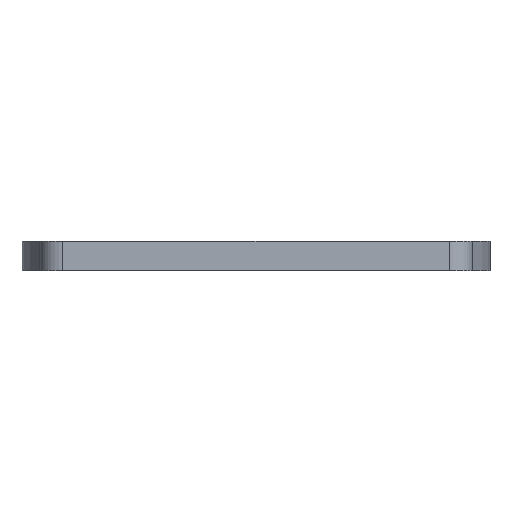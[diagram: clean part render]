
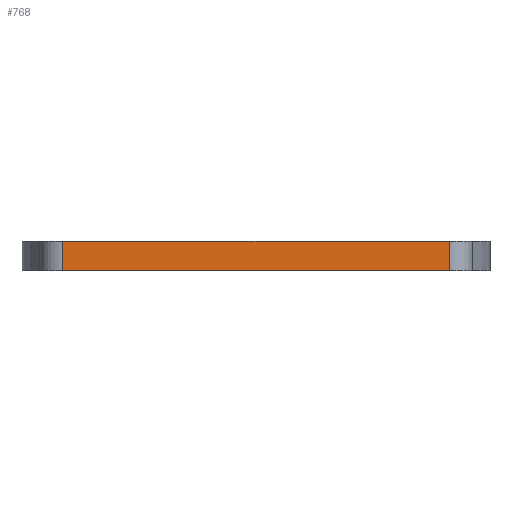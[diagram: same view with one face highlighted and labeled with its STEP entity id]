
A CAD part, front view. The second image highlights one B-rep face of the part: STEP entity #768.
In plain terms, the highlighted planar face has unit normal (0, -1, 0).
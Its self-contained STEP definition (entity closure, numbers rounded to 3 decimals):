
#16 = VECTOR ( 'NONE', #601, 1000. ) ;
#51 = LINE ( 'NONE', #335, #108 ) ;
#62 = VERTEX_POINT ( 'NONE', #966 ) ;
#96 = FACE_OUTER_BOUND ( 'NONE', #529, .T. ) ;
#107 = VERTEX_POINT ( 'NONE', #894 ) ;
#108 = VECTOR ( 'NONE', #732, 1000. ) ;
#117 = DIRECTION ( 'NONE',  ( 1., 0., 0. ) ) ;
#185 = ORIENTED_EDGE ( 'NONE', *, *, #351, .T. ) ;
#203 = LINE ( 'NONE', #1033, #16 ) ;
#235 = VECTOR ( 'NONE', #798, 1000. ) ;
#254 = LINE ( 'NONE', #1129, #235 ) ;
#335 = CARTESIAN_POINT ( 'NONE',  ( -40.612, -26.917, -2.5 ) ) ;
#351 = EDGE_CURVE ( 'NONE', #599, #839, #51, .T. ) ;
#384 = LINE ( 'NONE', #664, #898 ) ;
#393 = AXIS2_PLACEMENT_3D ( 'NONE', #487, #981, #117 ) ;
#402 = ORIENTED_EDGE ( 'NONE', *, *, #919, .F. ) ;
#487 = CARTESIAN_POINT ( 'NONE',  ( -40.612, -26.917, -2.5 ) ) ;
#529 = EDGE_LOOP ( 'NONE', ( #1041, #402, #185, #784 ) ) ;
#535 = CARTESIAN_POINT ( 'NONE',  ( -40.612, -26.917, -2.5 ) ) ;
#599 = VERTEX_POINT ( 'NONE', #535 ) ;
#601 = DIRECTION ( 'NONE',  ( 0., 0., 1. ) ) ;
#664 = CARTESIAN_POINT ( 'NONE',  ( -40.612, -26.917, -2.5 ) ) ;
#668 = EDGE_CURVE ( 'NONE', #107, #62, #254, .T. ) ;
#732 = DIRECTION ( 'NONE',  ( 1., 0., 0. ) ) ;
#768 = ADVANCED_FACE ( 'NONE', ( #96 ), #1088, .T. ) ;
#784 = ORIENTED_EDGE ( 'NONE', *, *, #1025, .T. ) ;
#798 = DIRECTION ( 'NONE',  ( 1., 0., 0. ) ) ;
#839 = VERTEX_POINT ( 'NONE', #1002 ) ;
#894 = CARTESIAN_POINT ( 'NONE',  ( -40.612, -26.917, 0. ) ) ;
#898 = VECTOR ( 'NONE', #1093, 1000. ) ;
#919 = EDGE_CURVE ( 'NONE', #599, #107, #384, .T. ) ;
#966 = CARTESIAN_POINT ( 'NONE',  ( -7.612, -26.917, 0. ) ) ;
#981 = DIRECTION ( 'NONE',  ( 0., -1., 0. ) ) ;
#1002 = CARTESIAN_POINT ( 'NONE',  ( -7.612, -26.917, -2.5 ) ) ;
#1025 = EDGE_CURVE ( 'NONE', #839, #62, #203, .T. ) ;
#1033 = CARTESIAN_POINT ( 'NONE',  ( -7.612, -26.917, -2.5 ) ) ;
#1041 = ORIENTED_EDGE ( 'NONE', *, *, #668, .F. ) ;
#1088 = PLANE ( 'NONE',  #393 ) ;
#1093 = DIRECTION ( 'NONE',  ( 0., 0., 1. ) ) ;
#1129 = CARTESIAN_POINT ( 'NONE',  ( -40.612, -26.917, 0. ) ) ;
